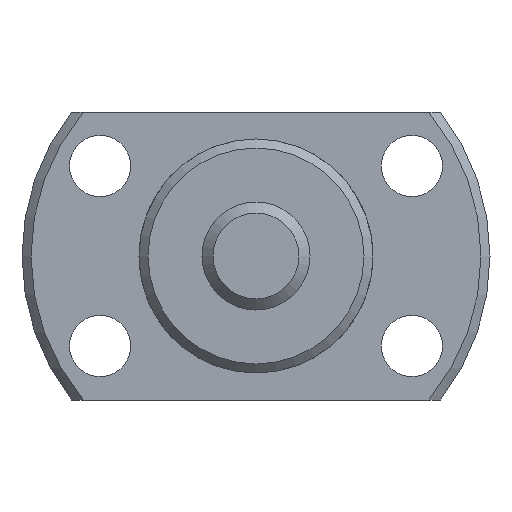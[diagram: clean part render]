
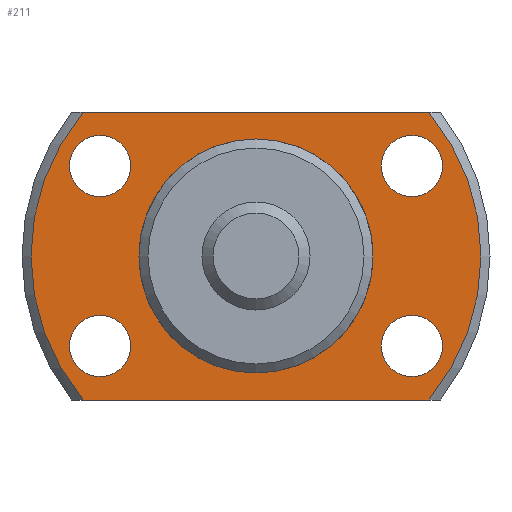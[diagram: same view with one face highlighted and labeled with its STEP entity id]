
A CAD part, left-side view. The second image highlights one B-rep face of the part: STEP entity #211.
In plain terms, the highlighted planar face has unit normal (-1, 0, 0).
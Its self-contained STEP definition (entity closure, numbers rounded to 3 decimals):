
#211 = ADVANCED_FACE( '', ( #330, #331, #332, #333, #334, #335 ), #336, .F. );
#330 = FACE_OUTER_BOUND( '', #461, .T. );
#331 = FACE_BOUND( '', #462, .T. );
#332 = FACE_BOUND( '', #463, .T. );
#333 = FACE_BOUND( '', #464, .T. );
#334 = FACE_BOUND( '', #465, .T. );
#335 = FACE_BOUND( '', #466, .T. );
#336 = PLANE( '', #467 );
#461 = EDGE_LOOP( '', ( #763, #764, #765, #766 ) );
#462 = EDGE_LOOP( '', ( #767 ) );
#463 = EDGE_LOOP( '', ( #768 ) );
#464 = EDGE_LOOP( '', ( #769 ) );
#465 = EDGE_LOOP( '', ( #770 ) );
#466 = EDGE_LOOP( '', ( #771 ) );
#467 = AXIS2_PLACEMENT_3D( '', #772, #773, #774 );
#763 = ORIENTED_EDGE( '', *, *, #880, .F. );
#764 = ORIENTED_EDGE( '', *, *, #878, .F. );
#765 = ORIENTED_EDGE( '', *, *, #927, .F. );
#766 = ORIENTED_EDGE( '', *, *, #892, .F. );
#767 = ORIENTED_EDGE( '', *, *, #864, .T. );
#768 = ORIENTED_EDGE( '', *, *, #866, .T. );
#769 = ORIENTED_EDGE( '', *, *, #868, .T. );
#770 = ORIENTED_EDGE( '', *, *, #870, .T. );
#771 = ORIENTED_EDGE( '', *, *, #924, .T. );
#772 = CARTESIAN_POINT( '', ( 13., 6.25, 0. ) );
#773 = DIRECTION( '', ( 1., 0., 0. ) );
#774 = DIRECTION( '', ( 0., 0., -1. ) );
#864 = EDGE_CURVE( '', #993, #993, #994, .T. );
#866 = EDGE_CURVE( '', #997, #997, #998, .T. );
#868 = EDGE_CURVE( '', #1001, #1001, #1002, .T. );
#870 = EDGE_CURVE( '', #1005, #1005, #1006, .T. );
#878 = EDGE_CURVE( '', #1020, #1022, #1023, .T. );
#880 = EDGE_CURVE( '', #1022, #1025, #1026, .T. );
#892 = EDGE_CURVE( '', #1025, #1045, #1046, .T. );
#924 = EDGE_CURVE( '', #1097, #1097, #1098, .T. );
#927 = EDGE_CURVE( '', #1045, #1020, #1102, .T. );
#993 = VERTEX_POINT( '', #1239 );
#994 = CIRCLE( '', #1240, 1.7 );
#997 = VERTEX_POINT( '', #1243 );
#998 = CIRCLE( '', #1244, 1.7 );
#1001 = VERTEX_POINT( '', #1247 );
#1002 = CIRCLE( '', #1248, 1.7 );
#1005 = VERTEX_POINT( '', #1251 );
#1006 = CIRCLE( '', #1252, 1.7 );
#1020 = VERTEX_POINT( '', #1275 );
#1022 = VERTEX_POINT( '', #1280 );
#1023 = LINE( '', #1281, #1282 );
#1025 = VERTEX_POINT( '', #1287 );
#1026 = CIRCLE( '', #1288, 12.5 );
#1045 = VERTEX_POINT( '', #1319 );
#1046 = LINE( '', #1320, #1321 );
#1097 = VERTEX_POINT( '', #1396 );
#1098 = CIRCLE( '', #1397, 6.25 );
#1102 = CIRCLE( '', #1402, 12.5 );
#1239 = CARTESIAN_POINT( '', ( 13., -8.66, -6.7 ) );
#1240 = AXIS2_PLACEMENT_3D( '', #1463, #1464, #1465 );
#1243 = CARTESIAN_POINT( '', ( 13., -8.66, 3.3 ) );
#1244 = AXIS2_PLACEMENT_3D( '', #1469, #1470, #1471 );
#1247 = CARTESIAN_POINT( '', ( 13., 8.66, -6.7 ) );
#1248 = AXIS2_PLACEMENT_3D( '', #1475, #1476, #1477 );
#1251 = CARTESIAN_POINT( '', ( 13., 8.66, 3.3 ) );
#1252 = AXIS2_PLACEMENT_3D( '', #1481, #1482, #1483 );
#1275 = CARTESIAN_POINT( '', ( 13., -9.605, -8. ) );
#1280 = CARTESIAN_POINT( '', ( 13., 9.605, -8. ) );
#1281 = CARTESIAN_POINT( '', ( 13., -18., -8. ) );
#1282 = VECTOR( '', #1490, 1000. );
#1287 = CARTESIAN_POINT( '', ( 13., 9.605, 8. ) );
#1288 = AXIS2_PLACEMENT_3D( '', #1491, #1492, #1493 );
#1319 = CARTESIAN_POINT( '', ( 13., -9.605, 8. ) );
#1320 = CARTESIAN_POINT( '', ( 13., 18., 8. ) );
#1321 = VECTOR( '', #1512, 1000. );
#1396 = CARTESIAN_POINT( '', ( 13., 0., -6.25 ) );
#1397 = AXIS2_PLACEMENT_3D( '', #1573, #1574, #1575 );
#1402 = AXIS2_PLACEMENT_3D( '', #1580, #1581, #1582 );
#1463 = CARTESIAN_POINT( '', ( 13., -8.66, -5. ) );
#1464 = DIRECTION( '', ( 1., 0., 0. ) );
#1465 = DIRECTION( '', ( 0., 0., -1. ) );
#1469 = CARTESIAN_POINT( '', ( 13., -8.66, 5. ) );
#1470 = DIRECTION( '', ( 1., 0., 0. ) );
#1471 = DIRECTION( '', ( 0., 0., -1. ) );
#1475 = CARTESIAN_POINT( '', ( 13., 8.66, -5. ) );
#1476 = DIRECTION( '', ( 1., 0., 0. ) );
#1477 = DIRECTION( '', ( 0., 0., -1. ) );
#1481 = CARTESIAN_POINT( '', ( 13., 8.66, 5. ) );
#1482 = DIRECTION( '', ( 1., 0., 0. ) );
#1483 = DIRECTION( '', ( 0., 0., -1. ) );
#1490 = DIRECTION( '', ( 0., 1., 0. ) );
#1491 = CARTESIAN_POINT( '', ( 13., 0., 0. ) );
#1492 = DIRECTION( '', ( 1., 0., 0. ) );
#1493 = DIRECTION( '', ( 0., 0., -1. ) );
#1512 = DIRECTION( '', ( 0., -1., 0. ) );
#1573 = CARTESIAN_POINT( '', ( 13., 0., 0. ) );
#1574 = DIRECTION( '', ( 1., 0., 0. ) );
#1575 = DIRECTION( '', ( 0., 0., -1. ) );
#1580 = CARTESIAN_POINT( '', ( 13., 0., 0. ) );
#1581 = DIRECTION( '', ( 1., 0., 0. ) );
#1582 = DIRECTION( '', ( 0., 0., -1. ) );
